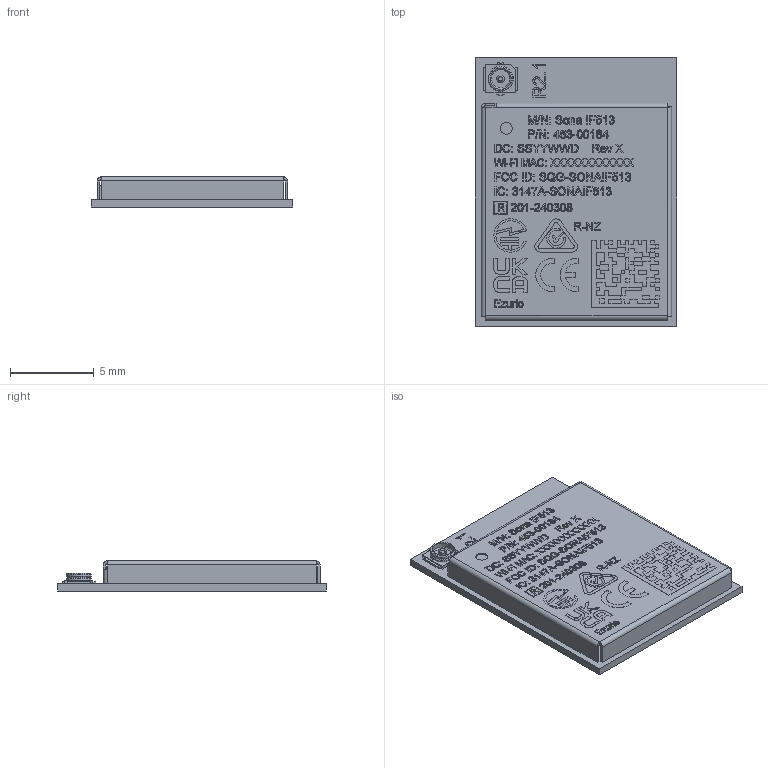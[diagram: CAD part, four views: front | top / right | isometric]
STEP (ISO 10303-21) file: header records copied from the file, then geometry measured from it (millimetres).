
FILE_DESCRIPTION (( 'STEP AP214' ), '1' );
FILE_NAME ('453-00184.STEP', '2026-05-25T09:44:26', ( '' ), ( '' ), 'SwSTEP 2.0', 'SolidWorks 2025', '' );
FILE_SCHEMA (( 'AUTOMOTIVE_DESIGN' ));
Length unit declared in the file: millimetre
Products named in the file (4): 940-00306_Laser; 750-03415-11103401_940-00306, MHF4L; 453-00184; 110-00826_453-00184
Assembly tree (3 placements, depth 3):
  453-00184
    940-00306_Laser
      750-03415-11103401_940-00306, MHF4L
      110-00826_453-00184
Bounding box: 12 x 16 x 1.82 mm (x, y, z)
Volume: 29.3 mm3; surface area: 1154.6 mm2
Topology: 1 solids, 305 shells, 4853 faces, 11677 edges, 7533 vertices
Faces by surface type: plane 3507, bspline 729, cylinder 471, sphere 136, cone 10
Entity records: 226205 total; most frequent: CARTESIAN_POINT 64015, ORIENTED_EDGE 23031, DIRECTION 19109, EDGE_CURVE 11541, LINE 9005, VECTOR 9005, VERTEX_POINT 7533, EDGE_LOOP 5090
